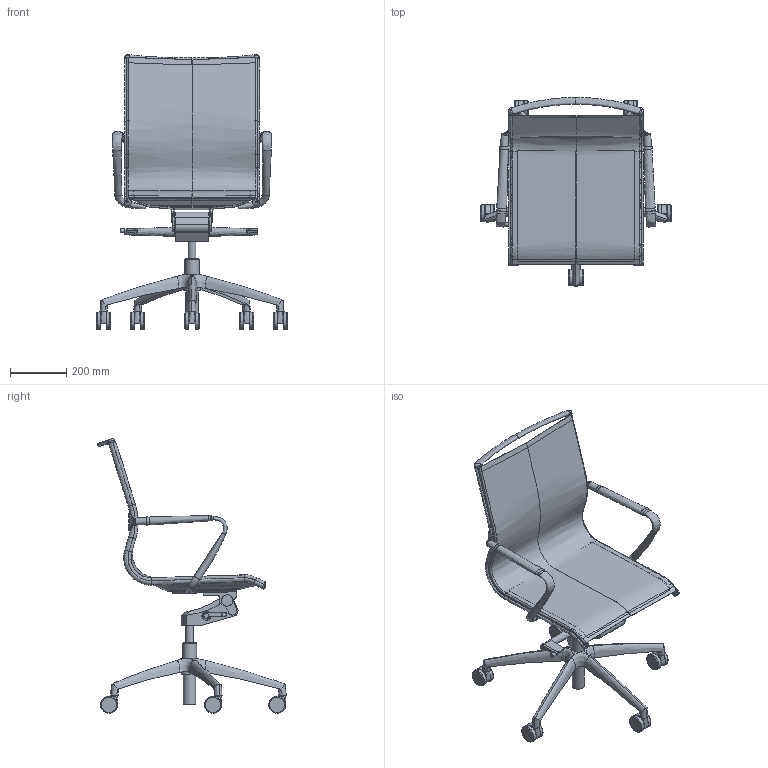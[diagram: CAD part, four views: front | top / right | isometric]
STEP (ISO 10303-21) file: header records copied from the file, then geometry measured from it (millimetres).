
FILE_DESCRIPTION(/* description */ (''),/* implementation_level */ '2;1');
FILE_NAME(/* name */ 'PL8241~1',/* time_stamp */ '2018-04-10T15:15:31+02:00',/* author */ (''),/* organization */ (''),/* preprocessor_version */ 'ST-DEVELOPER v16.5',/* originating_system */ '',/* authorisation */ '');
FILE_SCHEMA (('AUTOMOTIVE_DESIGN'));
Length unit declared in the file: millimetre
Products named in the file (1): Document
Bounding box: 677.7 x 669.48 x 974.8 mm (x, y, z)
Volume: 9695815.9 mm3; surface area: 1766313.5 mm2
Topology: 15 solids, 45 shells, 419 faces, 1045 edges, 666 vertices
Faces by surface type: bspline 293, plane 126
Entity records: 27805 total; most frequent: CARTESIAN_POINT 21715, ORIENTED_EDGE 1891, EDGE_CURVE 1022, VERTEX_POINT 660, B_SPLINE_CURVE_WITH_KNOTS 456, EDGE_LOOP 423, ADVANCED_FACE 419, FACE_OUTER_BOUND 419
